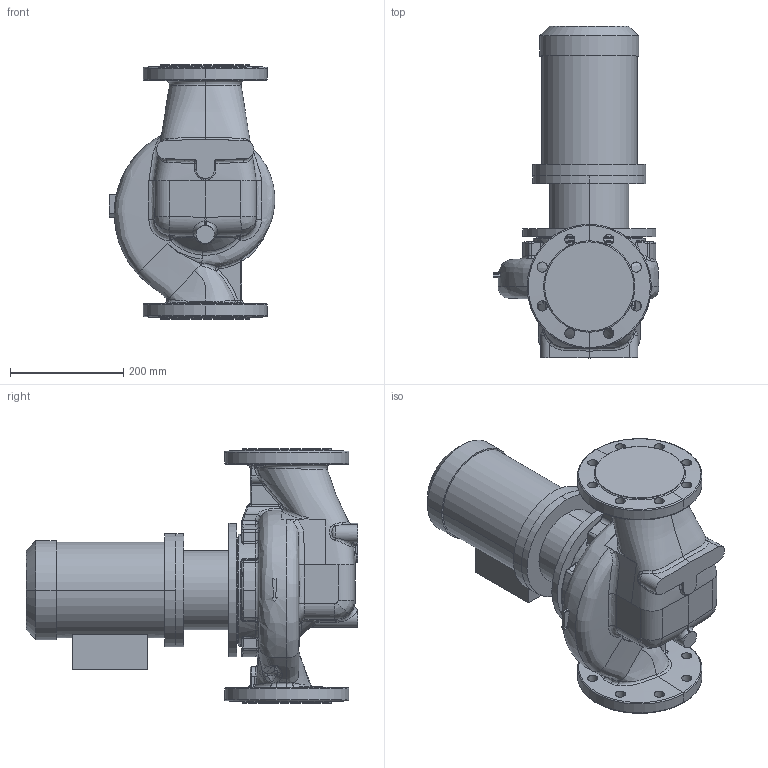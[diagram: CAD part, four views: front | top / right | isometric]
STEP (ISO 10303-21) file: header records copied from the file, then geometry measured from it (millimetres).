
FILE_DESCRIPTION (( 'STEP AP214' ), '1' );
FILE_NAME ('KRL 100-160-4-1,1.STEP', '2026-04-06T07:56:11', ( '' ), ( '' ), 'SwSTEP 2.0', 'SolidWorks 2016', '' );
FILE_SCHEMA (( 'AUTOMOTIVE_DESIGN' ));
Length unit declared in the file: millimetre
Products named in the file (1): KRL 100-160-4-1,1
Bounding box: 293.08 x 587.3 x 450 mm (x, y, z)
Volume: 21886352.5 mm3; surface area: 973221.1 mm2
Topology: 4 solids, 4 shells, 554 faces, 1355 edges, 813 vertices
Faces by surface type: bspline 255, cylinder 138, plane 85, cone 30, torus 28, sphere 18
Entity records: 55041 total; most frequent: CARTESIAN_POINT 38076, ORIENTED_EDGE 2686, DIRECTION 1647, EDGE_CURVE 1343, VERTEX_POINT 813, AXIS2_PLACEMENT_3D 702, B_SPLINE_CURVE_WITH_KNOTS 639, EDGE_LOOP 602
